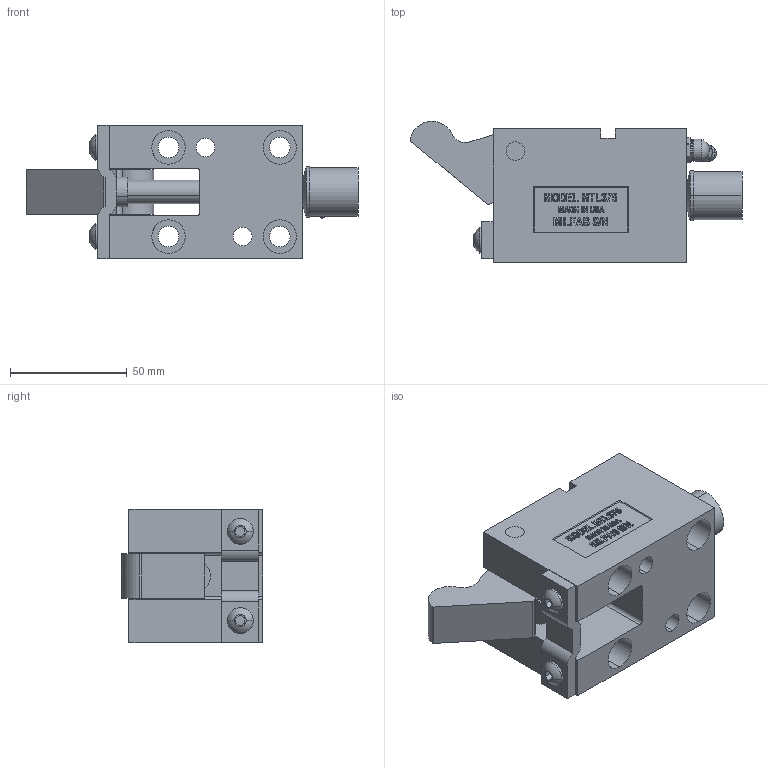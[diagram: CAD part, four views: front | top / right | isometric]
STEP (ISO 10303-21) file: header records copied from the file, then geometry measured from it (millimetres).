
FILE_DESCRIPTION (( 'STEP AP214' ), '1' );
FILE_NAME ('MTL37545-O.STEP', '2014-01-08T19:22:34', ( 'user' ), ( '' ), 'SwSTEP 2.0', 'SolidWorks 2009', '' );
FILE_SCHEMA (( 'AUTOMOTIVE_DESIGN' ));
Length unit declared in the file: inch
Products named in the file (11): MTL375-BODY; MTL37545-O; M-I-375-POINT; 375-WASHER; 375 PIVOT PIN; 375-I-STRAP; 1-4 SCREW; GREASE ZERK; 375 STRIPPER OPEN; 375-OFFSET TRIGGER; ML375-PUNCH
Assembly tree (11 placements, depth 2):
  MTL37545-O
    375-I-STRAP
    1-4 SCREW  x2
    375-OFFSET TRIGGER
    375 PIVOT PIN
    375 STRIPPER OPEN
    GREASE ZERK
    375-WASHER
    MTL375-BODY
    M-I-375-POINT
    ML375-PUNCH
Bounding box: 141.97 x 60.4 x 57.15 mm (x, y, z)
Volume: 224878.1 mm3; surface area: 59443.3 mm2
Topology: 11 solids, 11 shells, 595 faces, 1538 edges, 1010 vertices
Faces by surface type: plane 355, cylinder 100, bspline 86, cone 30, torus 20, sphere 4
Entity records: 22915 total; most frequent: CARTESIAN_POINT 8814, ORIENTED_EDGE 2988, DIRECTION 2478, EDGE_CURVE 1494, VECTOR 1004, LINE 1004, VERTEX_POINT 984, AXIS2_PLACEMENT_3D 737
